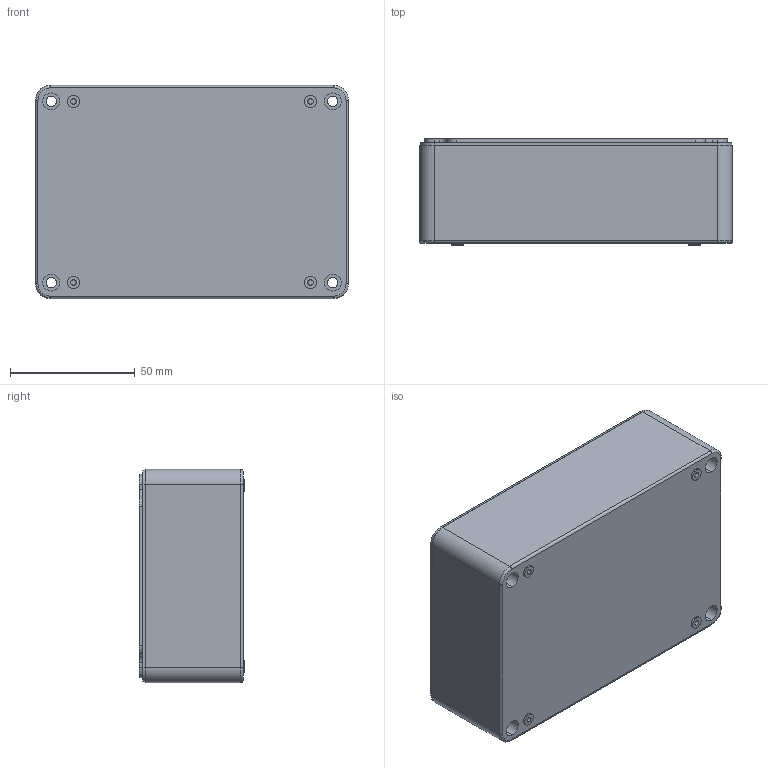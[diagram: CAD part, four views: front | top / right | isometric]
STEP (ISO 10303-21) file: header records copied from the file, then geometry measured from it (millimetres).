
FILE_DESCRIPTION (( 'STEP AP214' ), '1' );
FILE_NAME ('Cuerpo PP120.STEP', '2019-11-08T19:16:49', ( 'aaa' ), ( '' ), 'SwSTEP 2.0', 'SolidWorks 2014', '' );
FILE_SCHEMA (( 'AUTOMOTIVE_DESIGN' ));
Length unit declared in the file: millimetre
Products named in the file (1): Cuerpo PP120
Bounding box: 125.5 x 42.45 x 85.5 mm (x, y, z)
Volume: 82864.3 mm3; surface area: 57665.7 mm2
Topology: 1 solids, 1 shells, 229 faces, 538 edges, 356 vertices
Faces by surface type: cylinder 138, plane 87, torus 4
Entity records: 6750 total; most frequent: DIRECTION 1290, CARTESIAN_POINT 1124, ORIENTED_EDGE 1076, EDGE_CURVE 538, AXIS2_PLACEMENT_3D 522, VERTEX_POINT 356, CIRCLE 292, EDGE_LOOP 282
